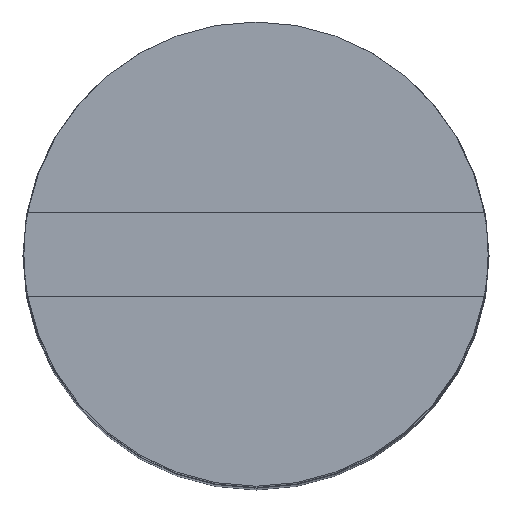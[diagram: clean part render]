
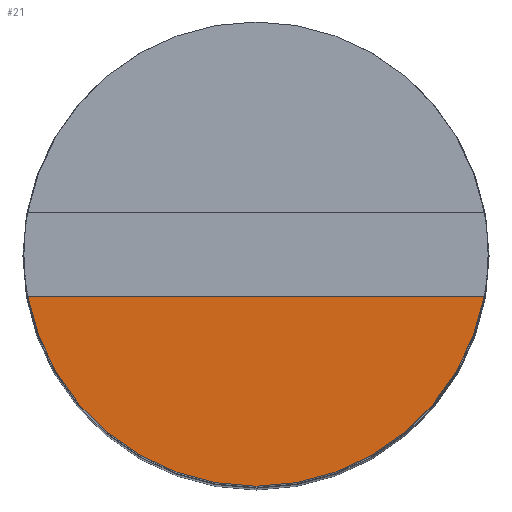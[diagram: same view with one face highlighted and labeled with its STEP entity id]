
A CAD part, top view. The second image highlights one B-rep face of the part: STEP entity #21.
In plain terms, the highlighted planar face has unit normal (0, 0, 1).
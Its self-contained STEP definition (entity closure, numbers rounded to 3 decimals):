
#21 = ADVANCED_FACE ( 'NONE', ( #154 ), #120, .T. ) ;
#28 = CARTESIAN_POINT ( 'NONE',  ( 0., 0., 6. ) ) ;
#46 = EDGE_CURVE ( 'NONE', #65, #144, #92, .T. ) ;
#56 = CARTESIAN_POINT ( 'NONE',  ( 0., -0.45, 6. ) ) ;
#65 = VERTEX_POINT ( 'NONE', #301 ) ;
#70 = CIRCLE ( 'NONE', #228, 2.49 ) ;
#74 = EDGE_LOOP ( 'NONE', ( #349, #151 ) ) ;
#75 = VECTOR ( 'NONE', #86, 1000. ) ;
#86 = DIRECTION ( 'NONE',  ( -1., 0., 0. ) ) ;
#92 = LINE ( 'NONE', #56, #75 ) ;
#115 = AXIS2_PLACEMENT_3D ( 'NONE', #28, #206, #278 ) ;
#120 = PLANE ( 'NONE',  #115 ) ;
#144 = VERTEX_POINT ( 'NONE', #303 ) ;
#151 = ORIENTED_EDGE ( 'NONE', *, *, #46, .T. ) ;
#154 = FACE_OUTER_BOUND ( 'NONE', #74, .T. ) ;
#159 = EDGE_CURVE ( 'NONE', #144, #65, #70, .T. ) ;
#206 = DIRECTION ( 'NONE',  ( 0., 0., 1. ) ) ;
#219 = DIRECTION ( 'NONE',  ( 0., 0., 1. ) ) ;
#228 = AXIS2_PLACEMENT_3D ( 'NONE', #310, #219, #250 ) ;
#250 = DIRECTION ( 'NONE',  ( 1., 0., 0. ) ) ;
#278 = DIRECTION ( 'NONE',  ( 1., 0., 0. ) ) ;
#301 = CARTESIAN_POINT ( 'NONE',  ( 2.449, -0.45, 6. ) ) ;
#303 = CARTESIAN_POINT ( 'NONE',  ( -2.449, -0.45, 6. ) ) ;
#310 = CARTESIAN_POINT ( 'NONE',  ( 0., 0., 6. ) ) ;
#349 = ORIENTED_EDGE ( 'NONE', *, *, #159, .T. ) ;
